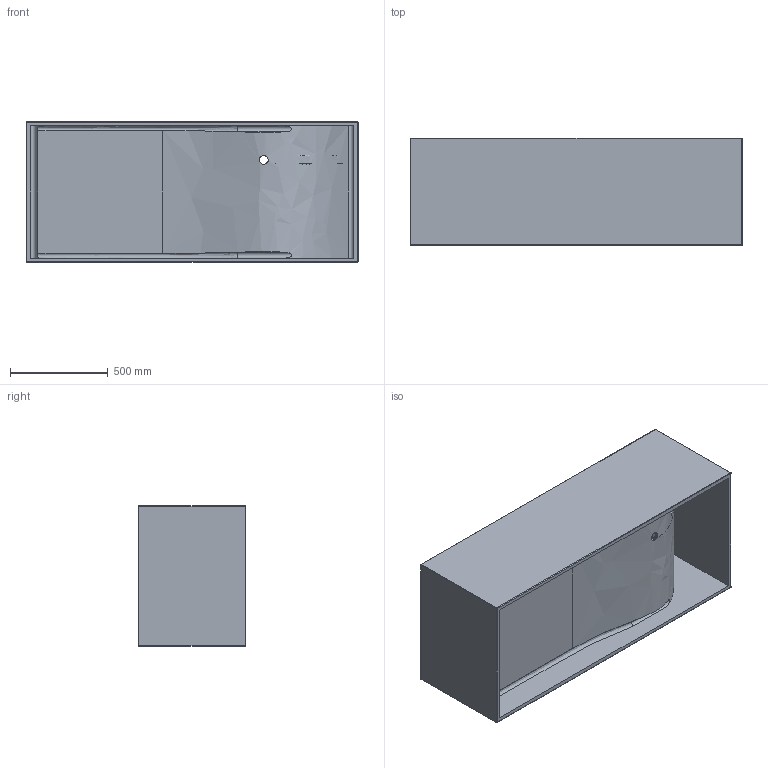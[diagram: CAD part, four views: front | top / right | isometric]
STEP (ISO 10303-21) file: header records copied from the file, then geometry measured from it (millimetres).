
FILE_DESCRIPTION (( 'STEP AP203' ), '1' );
FILE_NAME ('TC-S38.STEP', '2018-11-21T07:45:36', ( '旮僅薊襠http://www.deepbbs.org' ), ( 'http://www.deepbbs.org' ), 'SwSTEP 2.0', 'SolidWorks 2016', '' );
FILE_SCHEMA (( 'CONFIG_CONTROL_DESIGN' ));
Length unit declared in the file: millimetre
Products named in the file (1): TC-S38
Bounding box: 1700 x 550 x 720 mm (x, y, z)
Volume: 115832338.4 mm3; surface area: 7707182.3 mm2
Topology: 1 solids, 1 shells, 71 faces, 177 edges, 102 vertices
Faces by surface type: cylinder 29, plane 24, bspline 8, sphere 8, cone 2
Entity records: 5257 total; most frequent: CARTESIAN_POINT 3615, ORIENTED_EDGE 338, DIRECTION 303, EDGE_CURVE 169, AXIS2_PLACEMENT_3D 109, VERTEX_POINT 102, LINE 85, VECTOR 85
